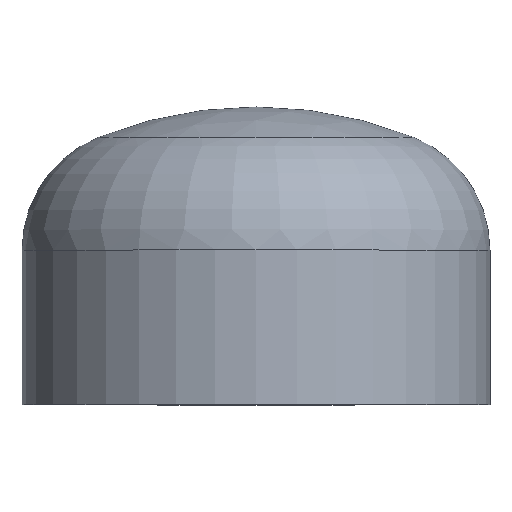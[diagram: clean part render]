
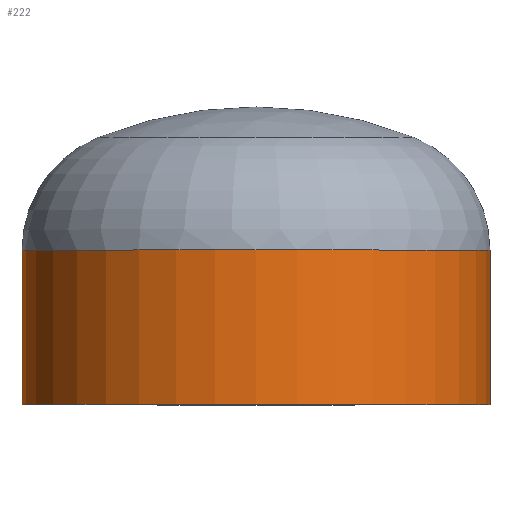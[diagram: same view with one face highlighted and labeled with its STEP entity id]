
A CAD part, top view. The second image highlights one B-rep face of the part: STEP entity #222.
In plain terms, the highlighted cylindrical face has radius 136.5 mm (diameter 273 mm), a partial arc.
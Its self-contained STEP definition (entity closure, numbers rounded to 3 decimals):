
#4 = VERTEX_POINT ( 'NONE', #289 ) ;
#16 = VERTEX_POINT ( 'NONE', #220 ) ;
#20 = AXIS2_PLACEMENT_3D ( 'NONE', #338, #188, #362 ) ;
#37 = ORIENTED_EDGE ( 'NONE', *, *, #100, .T. ) ;
#39 = AXIS2_PLACEMENT_3D ( 'NONE', #90, #251, #385 ) ;
#55 = VERTEX_POINT ( 'NONE', #401 ) ;
#70 = ORIENTED_EDGE ( 'NONE', *, *, #318, .T. ) ;
#75 = AXIS2_PLACEMENT_3D ( 'NONE', #297, #158, #327 ) ;
#90 = CARTESIAN_POINT ( 'NONE',  ( 0., 0., 0. ) ) ;
#93 = EDGE_LOOP ( 'NONE', ( #37, #70, #112, #113 ) ) ;
#98 = EDGE_CURVE ( 'NONE', #4, #116, #368, .T. ) ;
#100 = EDGE_CURVE ( 'NONE', #4, #55, #292, .T. ) ;
#112 = ORIENTED_EDGE ( 'NONE', *, *, #335, .F. ) ;
#113 = ORIENTED_EDGE ( 'NONE', *, *, #98, .F. ) ;
#116 = VERTEX_POINT ( 'NONE', #249 ) ;
#158 = DIRECTION ( 'NONE',  ( 0., -1., 0. ) ) ;
#172 = VECTOR ( 'NONE', #200, 1000. ) ;
#188 = DIRECTION ( 'NONE',  ( 0., -1., 0. ) ) ;
#189 = VECTOR ( 'NONE', #334, 1000. ) ;
#195 = LINE ( 'NONE', #208, #189 ) ;
#200 = DIRECTION ( 'NONE',  ( 0., -1., 0. ) ) ;
#208 = CARTESIAN_POINT ( 'NONE',  ( -136.5, 0., 0. ) ) ;
#220 = CARTESIAN_POINT ( 'NONE',  ( -136.5, 0., 0. ) ) ;
#222 = ADVANCED_FACE ( 'NONE', ( #408 ), #403, .T. ) ;
#249 = CARTESIAN_POINT ( 'NONE',  ( 136.5, 0., 0. ) ) ;
#251 = DIRECTION ( 'NONE',  ( 0., -1., 0. ) ) ;
#289 = CARTESIAN_POINT ( 'NONE',  ( 136.5, 90., 0. ) ) ;
#292 = CIRCLE ( 'NONE', #75, 136.5 ) ;
#297 = CARTESIAN_POINT ( 'NONE',  ( 0., 90., 0. ) ) ;
#318 = EDGE_CURVE ( 'NONE', #55, #16, #195, .T. ) ;
#327 = DIRECTION ( 'NONE',  ( 1., 0., 0. ) ) ;
#334 = DIRECTION ( 'NONE',  ( 0., -1., 0. ) ) ;
#335 = EDGE_CURVE ( 'NONE', #116, #16, #379, .T. ) ;
#338 = CARTESIAN_POINT ( 'NONE',  ( 0., 0., 0. ) ) ;
#362 = DIRECTION ( 'NONE',  ( 1., 0., 0. ) ) ;
#368 = LINE ( 'NONE', #376, #172 ) ;
#376 = CARTESIAN_POINT ( 'NONE',  ( 136.5, 0., 0. ) ) ;
#379 = CIRCLE ( 'NONE', #20, 136.5 ) ;
#385 = DIRECTION ( 'NONE',  ( 1., 0., 0. ) ) ;
#401 = CARTESIAN_POINT ( 'NONE',  ( -136.5, 90., 0. ) ) ;
#403 = CYLINDRICAL_SURFACE ( 'NONE', #39, 136.5 ) ;
#408 = FACE_OUTER_BOUND ( 'NONE', #93, .T. ) ;
